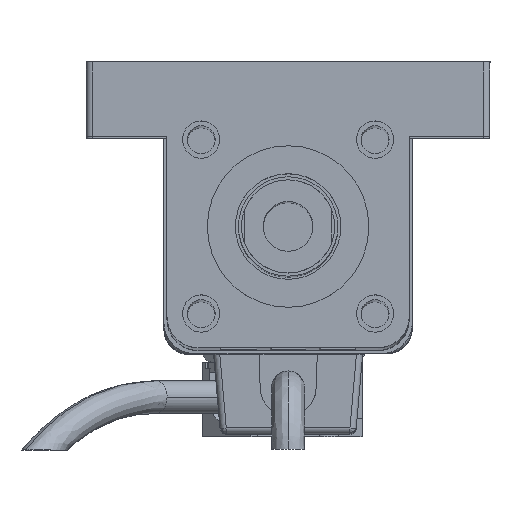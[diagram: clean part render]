
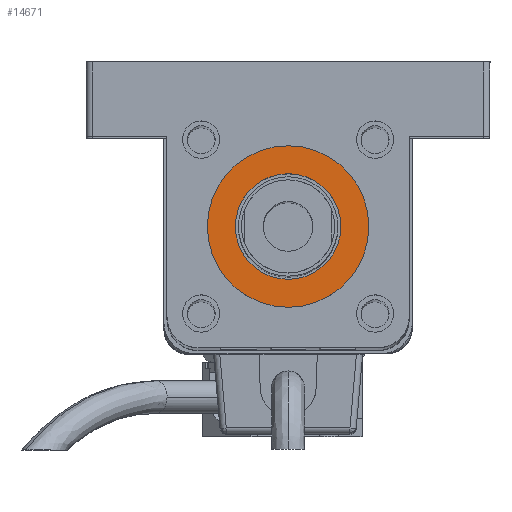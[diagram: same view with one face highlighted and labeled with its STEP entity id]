
A CAD part, top view. The second image highlights one B-rep face of the part: STEP entity #14671.
In plain terms, the highlighted planar face has unit normal (0, 0, 1) as drawn and (0, 0, -1) by its records, which use the part's own axes.
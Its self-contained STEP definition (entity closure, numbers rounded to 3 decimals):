
#790 = PLANE ( 'NONE',  #9027 ) ;
#884 = DIRECTION ( 'NONE',  ( -1., 0., 0. ) ) ;
#981 = CARTESIAN_POINT ( 'NONE',  ( 19.5, -19.5, -3. ) ) ;
#2284 = DIRECTION ( 'NONE',  ( -1., 0., 0. ) ) ;
#2391 = VERTEX_POINT ( 'NONE', #6319 ) ;
#2550 = EDGE_CURVE ( 'NONE', #16419, #28621, #8614, .T. ) ;
#2584 = CARTESIAN_POINT ( 'NONE',  ( 19.5, -19.5, -3. ) ) ;
#2631 = CARTESIAN_POINT ( 'NONE',  ( 19.5, -19.5, -3. ) ) ;
#3371 = CARTESIAN_POINT ( 'NONE',  ( 32.5, -19.5, -3. ) ) ;
#3428 = CIRCLE ( 'NONE', #4244, 13. ) ;
#3992 = CARTESIAN_POINT ( 'NONE',  ( 28., -19.5, -3. ) ) ;
#4244 = AXIS2_PLACEMENT_3D ( 'NONE', #2584, #9335, #14485 ) ;
#4431 = CIRCLE ( 'NONE', #23772, 8.5 ) ;
#4593 = DIRECTION ( 'NONE',  ( 0., 0., -1. ) ) ;
#4725 = CARTESIAN_POINT ( 'NONE',  ( 19.5, -19.5, -3. ) ) ;
#5074 = ORIENTED_EDGE ( 'NONE', *, *, #2550, .T. ) ;
#6319 = CARTESIAN_POINT ( 'NONE',  ( 11., -19.5, -3. ) ) ;
#6566 = FACE_BOUND ( 'NONE', #20321, .T. ) ;
#6623 = EDGE_LOOP ( 'NONE', ( #19198, #5074 ) ) ;
#7137 = DIRECTION ( 'NONE',  ( -1., 0., 0. ) ) ;
#7618 = AXIS2_PLACEMENT_3D ( 'NONE', #24014, #26271, #12814 ) ;
#8614 = CIRCLE ( 'NONE', #22043, 13. ) ;
#9027 = AXIS2_PLACEMENT_3D ( 'NONE', #981, #16699, #884 ) ;
#9335 = DIRECTION ( 'NONE',  ( 0., 0., -1. ) ) ;
#10728 = ORIENTED_EDGE ( 'NONE', *, *, #24690, .F. ) ;
#12814 = DIRECTION ( 'NONE',  ( -1., 0., 0. ) ) ;
#14485 = DIRECTION ( 'NONE',  ( -1., 0., 0. ) ) ;
#14671 = ADVANCED_FACE ( 'NONE', ( #6566, #18908 ), #790, .T. ) ;
#16419 = VERTEX_POINT ( 'NONE', #20885 ) ;
#16425 = CIRCLE ( 'NONE', #7618, 8.5 ) ;
#16699 = DIRECTION ( 'NONE',  ( 0., 0., -1. ) ) ;
#18908 = FACE_OUTER_BOUND ( 'NONE', #6623, .T. ) ;
#19198 = ORIENTED_EDGE ( 'NONE', *, *, #27448, .T. ) ;
#20321 = EDGE_LOOP ( 'NONE', ( #10728, #24686 ) ) ;
#20885 = CARTESIAN_POINT ( 'NONE',  ( 6.5, -19.5, -3. ) ) ;
#22043 = AXIS2_PLACEMENT_3D ( 'NONE', #4725, #24700, #2284 ) ;
#22422 = VERTEX_POINT ( 'NONE', #3992 ) ;
#23772 = AXIS2_PLACEMENT_3D ( 'NONE', #2631, #4593, #7137 ) ;
#24014 = CARTESIAN_POINT ( 'NONE',  ( 19.5, -19.5, -3. ) ) ;
#24686 = ORIENTED_EDGE ( 'NONE', *, *, #28222, .F. ) ;
#24690 = EDGE_CURVE ( 'NONE', #2391, #22422, #4431, .T. ) ;
#24700 = DIRECTION ( 'NONE',  ( 0., 0., -1. ) ) ;
#26271 = DIRECTION ( 'NONE',  ( 0., 0., -1. ) ) ;
#27448 = EDGE_CURVE ( 'NONE', #28621, #16419, #3428, .T. ) ;
#28222 = EDGE_CURVE ( 'NONE', #22422, #2391, #16425, .T. ) ;
#28621 = VERTEX_POINT ( 'NONE', #3371 ) ;
